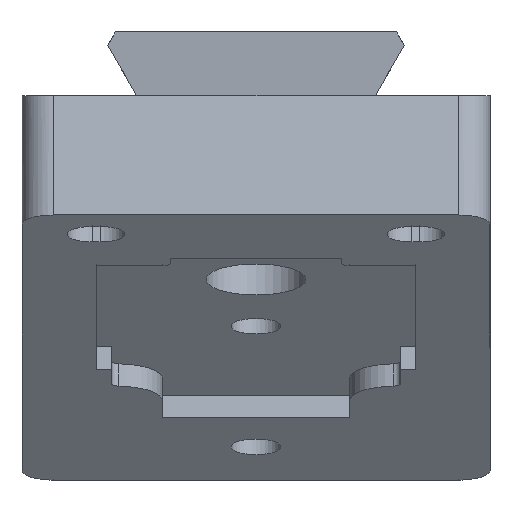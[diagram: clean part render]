
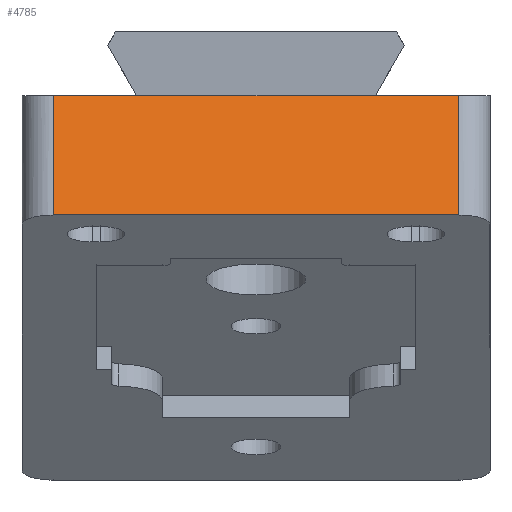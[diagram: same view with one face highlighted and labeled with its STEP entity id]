
A CAD part, left-side view. The second image highlights one B-rep face of the part: STEP entity #4785.
In plain terms, the highlighted planar face has unit normal (-0.951, 0, 0.309).
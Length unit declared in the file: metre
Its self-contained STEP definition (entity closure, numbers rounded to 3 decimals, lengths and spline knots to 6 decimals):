
#702=ORIENTED_EDGE('',*,*,#1944,.T.);
#703=ORIENTED_EDGE('',*,*,#2118,.T.);
#704=ORIENTED_EDGE('',*,*,#1873,.F.);
#705=ORIENTED_EDGE('',*,*,#2119,.T.);
#706=ORIENTED_EDGE('',*,*,#1956,.T.);
#707=ORIENTED_EDGE('',*,*,#2113,.T.);
#1873=EDGE_CURVE('',#2600,#2601,#3084,.T.);
#1944=EDGE_CURVE('',#2662,#2669,#3130,.T.);
#1956=EDGE_CURVE('',#2678,#2654,#3136,.T.);
#2113=EDGE_CURVE('',#2654,#2662,#3218,.T.);
#2118=EDGE_CURVE('',#2669,#2601,#3219,.T.);
#2119=EDGE_CURVE('',#2600,#2678,#3220,.F.);
#2600=VERTEX_POINT('',#6428);
#2601=VERTEX_POINT('',#6430);
#2654=VERTEX_POINT('',#6543);
#2662=VERTEX_POINT('',#6561);
#2669=VERTEX_POINT('',#6578);
#2678=VERTEX_POINT('',#6600);
#3084=LINE('',#6429,#3542);
#3130=LINE('',#6579,#3588);
#3136=LINE('',#6599,#3594);
#3218=LINE('',#7007,#3676);
#3219=LINE('',#7019,#3677);
#3220=LINE('',#7020,#3678);
#3542=VECTOR('',#5365,1.);
#3588=VECTOR('',#5481,1.);
#3594=VECTOR('',#5499,1.);
#3676=VECTOR('',#5647,1.);
#3677=VECTOR('',#5666,1.);
#3678=VECTOR('',#5667,1.);
#4042=EDGE_LOOP('',(#702,#703,#704,#705,#706,#707));
#4354=FACE_BOUND('',#4042,.T.);
#4638=PLANE('',#5134);
#4785=ADVANCED_FACE('',(#4354),#4638,.F.);
#5134=AXIS2_PLACEMENT_3D('',#7018,#5664,#5665);
#5365=DIRECTION('',(0.,1.,0.));
#5481=DIRECTION('',(0.,1.,0.));
#5499=DIRECTION('',(0.,1.,0.));
#5647=DIRECTION('',(0.,1.,0.));
#5664=DIRECTION('',(0.951,0.,-0.309));
#5665=DIRECTION('',(-0.309,0.,-0.951));
#5666=DIRECTION('',(-0.309,0.,-0.951));
#5667=DIRECTION('',(-0.309,0.,-0.951));
#6428=CARTESIAN_POINT('',(-0.002481,-0.013,-0.007636));
#6429=CARTESIAN_POINT('',(-0.002481,-0.015,-0.007636));
#6430=CARTESIAN_POINT('',(-0.002481,0.013,-0.007636));
#6543=CARTESIAN_POINT('',(0.,-0.007695,0.));
#6561=CARTESIAN_POINT('',(0.,0.007695,0.));
#6578=CARTESIAN_POINT('',(0.,0.013,0.));
#6579=CARTESIAN_POINT('',(0.,-0.015,0.));
#6599=CARTESIAN_POINT('',(0.,-0.015,0.));
#6600=CARTESIAN_POINT('',(0.,-0.013,0.));
#7007=CARTESIAN_POINT('',(0.,0.,0.));
#7018=CARTESIAN_POINT('',(-0.001241,-0.015,-0.003818));
#7019=CARTESIAN_POINT('',(-0.001241,0.013,-0.003818));
#7020=CARTESIAN_POINT('',(0.,-0.013,0.));
